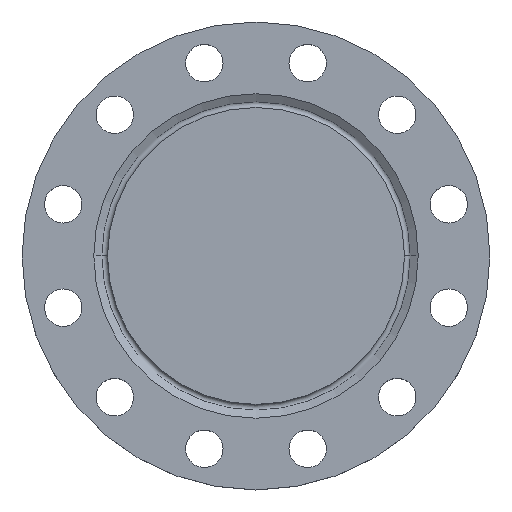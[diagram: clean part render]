
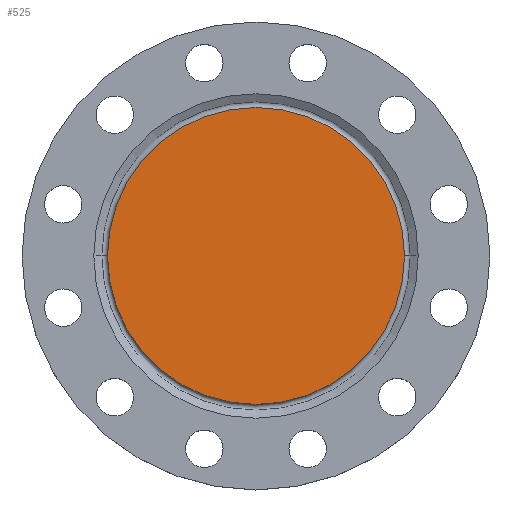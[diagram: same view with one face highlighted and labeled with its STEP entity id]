
A CAD part, top view. The second image highlights one B-rep face of the part: STEP entity #525.
In plain terms, the highlighted planar face has unit normal (0, 0, 1).
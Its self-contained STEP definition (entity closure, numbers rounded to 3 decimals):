
#67 = PLANE ( 'NONE',  #550 ) ;
#81 = EDGE_LOOP ( 'NONE', ( #187, #188 ) ) ;
#89 = VERTEX_POINT ( 'NONE', #1024 ) ;
#187 = ORIENTED_EDGE ( 'NONE', *, *, #984, .F. ) ;
#188 = ORIENTED_EDGE ( 'NONE', *, *, #908, .F. ) ;
#236 = DIRECTION ( 'NONE',  ( -1., 0., 0. ) ) ;
#335 = CIRCLE ( 'NONE', #853, 119. ) ;
#336 = DIRECTION ( 'NONE',  ( 0., 0., -1. ) ) ;
#426 = VERTEX_POINT ( 'NONE', #671 ) ;
#510 = CARTESIAN_POINT ( 'NONE',  ( 0., 0., 0. ) ) ;
#525 = ADVANCED_FACE ( 'NONE', ( #951 ), #67, .T. ) ;
#550 = AXIS2_PLACEMENT_3D ( 'NONE', #510, #878, #1162 ) ;
#671 = CARTESIAN_POINT ( 'NONE',  ( 119., 0., 0. ) ) ;
#721 = DIRECTION ( 'NONE',  ( -1., 0., 0. ) ) ;
#738 = CARTESIAN_POINT ( 'NONE',  ( 0., 0., 0. ) ) ;
#773 = CIRCLE ( 'NONE', #792, 119. ) ;
#792 = AXIS2_PLACEMENT_3D ( 'NONE', #1070, #336, #721 ) ;
#853 = AXIS2_PLACEMENT_3D ( 'NONE', #738, #1031, #236 ) ;
#878 = DIRECTION ( 'NONE',  ( 0., 0., 1. ) ) ;
#908 = EDGE_CURVE ( 'NONE', #426, #89, #773, .T. ) ;
#951 = FACE_OUTER_BOUND ( 'NONE', #81, .T. ) ;
#984 = EDGE_CURVE ( 'NONE', #89, #426, #335, .T. ) ;
#1024 = CARTESIAN_POINT ( 'NONE',  ( -119., 0., 0. ) ) ;
#1031 = DIRECTION ( 'NONE',  ( 0., 0., -1. ) ) ;
#1070 = CARTESIAN_POINT ( 'NONE',  ( 0., 0., 0. ) ) ;
#1162 = DIRECTION ( 'NONE',  ( 1., 0., 0. ) ) ;
